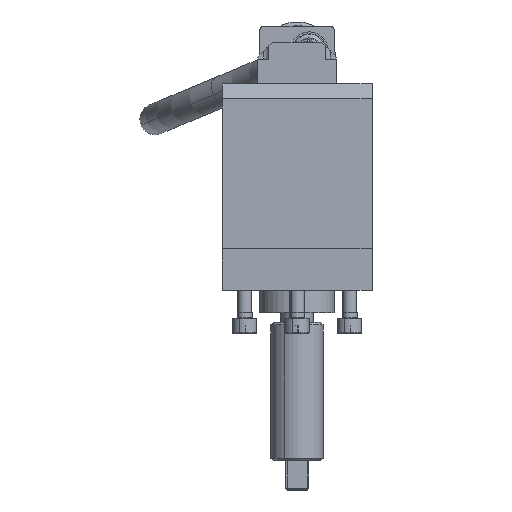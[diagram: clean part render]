
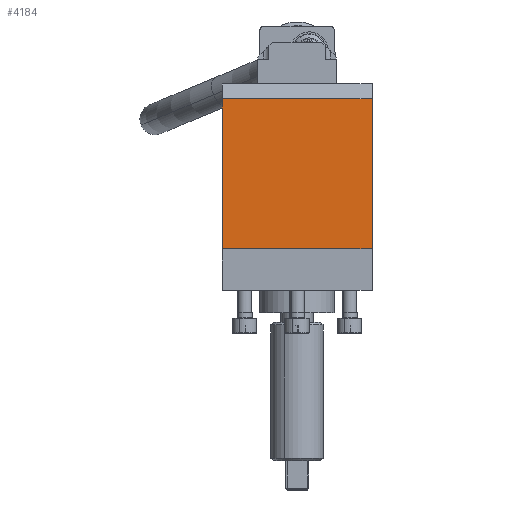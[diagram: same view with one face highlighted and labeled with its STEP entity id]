
A CAD part, top view. The second image highlights one B-rep face of the part: STEP entity #4184.
In plain terms, the highlighted planar face has unit normal (0, 0, 1).
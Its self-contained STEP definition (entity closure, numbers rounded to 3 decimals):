
#4123=CARTESIAN_POINT('Vertex',(40.,32.,510.2)) ;
#4139=CARTESIAN_POINT('Vertex',(-40.,32.,510.2)) ;
#4142=CARTESIAN_POINT('Line Origine',(0.,32.,510.2)) ;
#4154=CARTESIAN_POINT('Axis2P3D Location',(0.,-48.,510.2)) ;
#4159=CARTESIAN_POINT('Line Origine',(40.,-8.,510.2)) ;
#4163=CARTESIAN_POINT('Vertex',(40.,-48.,510.2)) ;
#4166=CARTESIAN_POINT('Line Origine',(-40.,-8.,510.2)) ;
#4170=CARTESIAN_POINT('Vertex',(-40.,-48.,510.2)) ;
#4173=CARTESIAN_POINT('Line Origine',(0.,-48.,510.2)) ;
#4143=DIRECTION('Vector Direction',(1.,0.,0.)) ;
#4155=DIRECTION('Axis2P3D Direction',(0.,0.,-1.)) ;
#4156=DIRECTION('Axis2P3D XDirection',(0.,1.,0.)) ;
#4160=DIRECTION('Vector Direction',(0.,1.,0.)) ;
#4167=DIRECTION('Vector Direction',(0.,1.,0.)) ;
#4174=DIRECTION('Vector Direction',(1.,0.,0.)) ;
#4157=AXIS2_PLACEMENT_3D('Plane Axis2P3D',#4154,#4155,#4156) ;
#4179=ORIENTED_EDGE('',*,*,#4165,.T.) ;
#4180=ORIENTED_EDGE('',*,*,#4146,.F.) ;
#4181=ORIENTED_EDGE('',*,*,#4172,.F.) ;
#4182=ORIENTED_EDGE('',*,*,#4177,.T.) ;
#4144=VECTOR('Line Direction',#4143,1.) ;
#4161=VECTOR('Line Direction',#4160,1.) ;
#4168=VECTOR('Line Direction',#4167,1.) ;
#4175=VECTOR('Line Direction',#4174,1.) ;
#4184=ADVANCED_FACE('',(#4183),#4158,.F.) ;
#4146=EDGE_CURVE('',#4140,#4124,#4145,.T.) ;
#4165=EDGE_CURVE('',#4164,#4124,#4162,.T.) ;
#4172=EDGE_CURVE('',#4171,#4140,#4169,.T.) ;
#4177=EDGE_CURVE('',#4171,#4164,#4176,.T.) ;
#4178=EDGE_LOOP('',(#4179,#4180,#4181,#4182)) ;
#4183=FACE_OUTER_BOUND('',#4178,.T.) ;
#4145=LINE('Line',#4142,#4144) ;
#4162=LINE('Line',#4159,#4161) ;
#4169=LINE('Line',#4166,#4168) ;
#4176=LINE('Line',#4173,#4175) ;
#4158=PLANE('Plane',#4157) ;
#4124=VERTEX_POINT('',#4123) ;
#4140=VERTEX_POINT('',#4139) ;
#4164=VERTEX_POINT('',#4163) ;
#4171=VERTEX_POINT('',#4170) ;
